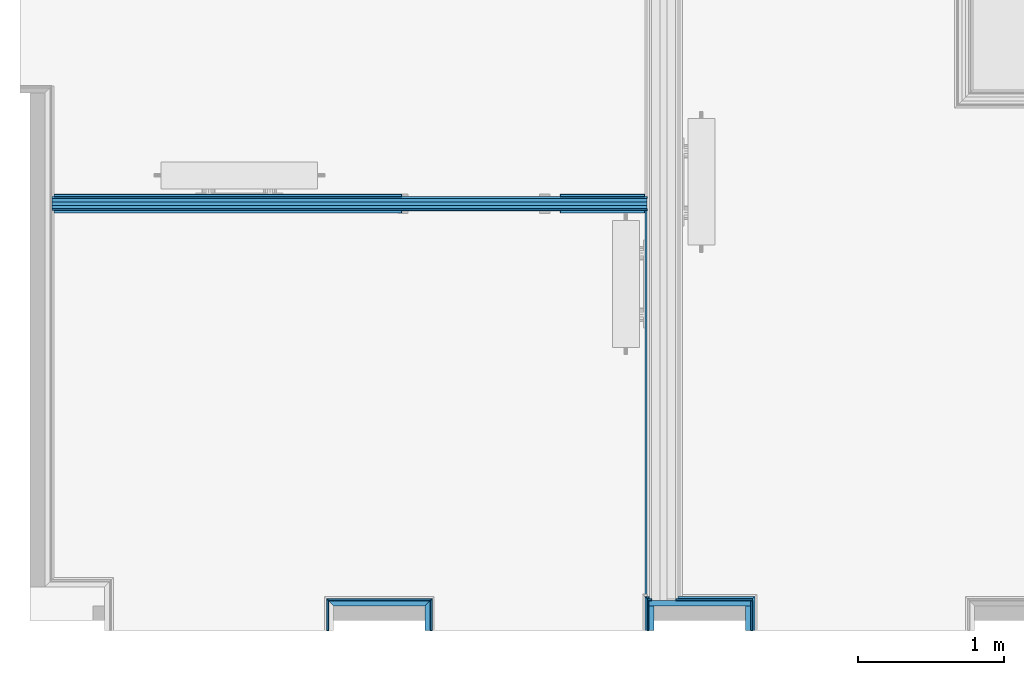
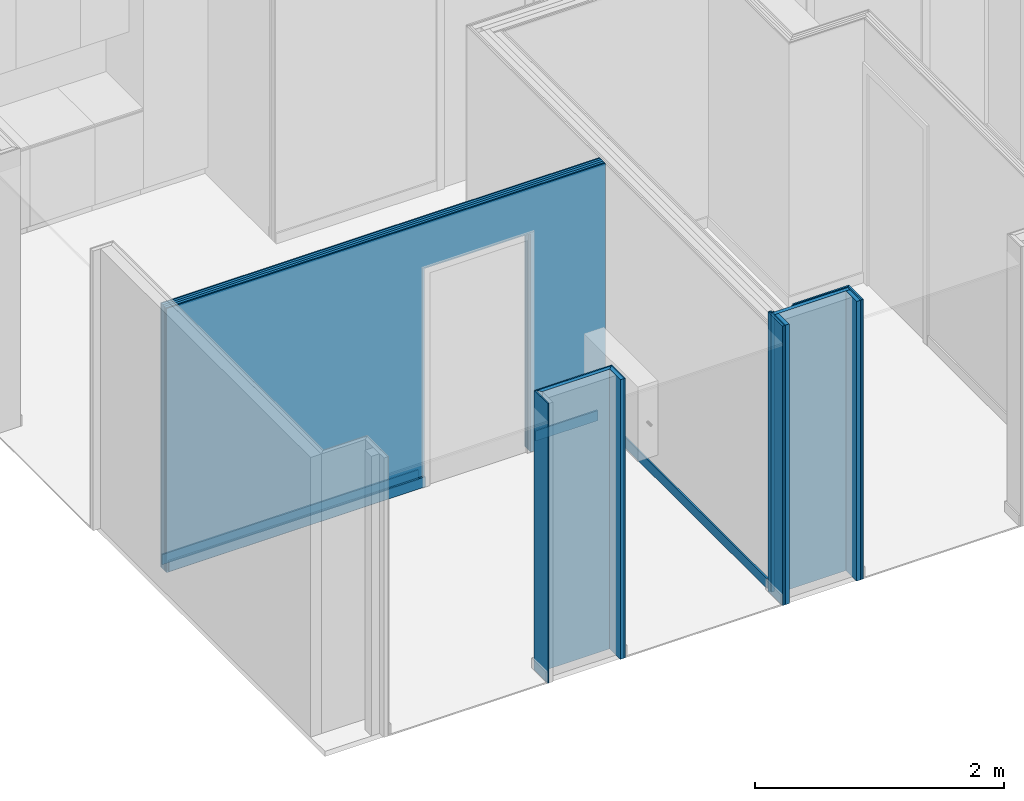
# One storey, part 9 of 82: 24 building element parts, 1 opening, 8 elements without a shape of their own.
"""IFC2X3 building model written with IfcOpenShell, lengths in metres."""

import ifcopenshell
import ifcopenshell.guid

model = None  # the IFC model being written
_history = None  # IfcOwnerHistory: only IFC2X3 demands one
_inside = {}  # id of a spatial element -> (the spatial element, [elements in it])
_under = {}  # id of a project, library or spatial element -> (it, [spatial elements below it])
_declared = {}  # id of a project -> (the project, [libraries it declares])
_typed = {}  # id of a type object -> (the type object, [elements of that type])
_made_of = {}  # id of a material, layer set ... -> (it, [elements and type objects made of it])


def new_model(schema):
    """Start an empty IFC model of exactly this schema.

    Asked for "IFC4X3", IfcOpenShell would pick the latest addendum, in which some entities
    have other attributes; the version numbers below select the first issue.
    IFC2X3 requires an IfcOwnerHistory on every rooted entity: one is made here for all.
    """
    global model, _history
    if schema == "IFC4X3":
        model = ifcopenshell.file(schema_version=(4, 3, 0, 0))
    else:
        model = ifcopenshell.file(schema=schema)
    _inside.clear()
    _under.clear()
    _declared.clear()
    _typed.clear()
    _made_of.clear()
    _history = None
    if model.schema == "IFC2X3":
        org = make("IfcOrganization", Name="unknown")
        user = make(
            "IfcPersonAndOrganization",
            ThePerson=make("IfcPerson", FamilyName="unknown"),
            TheOrganization=org,
        )
        app = make(
            "IfcApplication",
            ApplicationDeveloper=org,
            Version="unknown",
            ApplicationFullName="unknown",
            ApplicationIdentifier="unknown",
        )
        _history = make(
            "IfcOwnerHistory",
            OwningUser=user,
            OwningApplication=app,
            ChangeAction="ADDED",
            CreationDate=0,
        )
    return model


def make(cls, **values):
    """One entity of the class cls with the attributes given. An attribute that is None is left unset."""
    return model.create_entity(
        cls, **{name: value for name, value in values.items() if value is not None}
    )


def entity(cls, *values):
    """Any entity or typed value of the class cls, its attributes in the order of the schema. None: left unset."""
    e = model.create_entity(cls)
    for i, value in enumerate(values):
        if value is not None:
            e[i] = value
    return e


def rooted(cls, **values):
    """An entity with a GlobalId (a new one), such as an element, a storey or a relation."""
    return make(cls, GlobalId=ifcopenshell.guid.new(), OwnerHistory=_history, **values)


def si_unit(unit_type, name, prefix=None):
    """IfcSIUnit, for example si_unit("LENGTHUNIT", "METRE", prefix="MILLI")."""
    return make("IfcSIUnit", UnitType=unit_type, Prefix=prefix, Name=name)


def converted_unit(unit_type, name, factor, base, dimensions=None, offset=None):
    """IfcConversionBasedUnit, such as the inch: factor (a typed value) times the base unit."""
    return make(
        "IfcConversionBasedUnit"
        if offset is None
        else "IfcConversionBasedUnitWithOffset",
        ConversionOffset=offset,
        Dimensions=None
        if dimensions is None
        else entity("IfcDimensionalExponents", *dimensions),
        UnitType=unit_type,
        Name=name,
        ConversionFactor=make(
            "IfcMeasureWithUnit", ValueComponent=factor, UnitComponent=base
        ),
    )


def derived_unit(unit_type, elements):
    """IfcDerivedUnit: a product of units, each with its exponent."""
    return make(
        "IfcDerivedUnit",
        Elements=[
            make("IfcDerivedUnitElement", Unit=unit, Exponent=power)
            for unit, power in elements
        ],
        UnitType=unit_type,
    )


def money_unit(currency):
    """IfcMonetaryUnit."""
    return make("IfcMonetaryUnit", Currency=currency)


def assignment(units):
    """IfcUnitAssignment: the units of a project."""
    return None if units is None else make("IfcUnitAssignment", Units=units)


def point(xyz):
    """IfcCartesianPoint."""
    return None if xyz is None else make("IfcCartesianPoint", Coordinates=xyz)


def direction(xyz):
    """IfcDirection."""
    return None if xyz is None else make("IfcDirection", DirectionRatios=xyz)


def frame(location, z_axis=None, x_axis=None):
    """IfcAxis2Placement3D, a coordinate frame: its origin and axes. An axis left out is left unset."""
    return make(
        "IfcAxis2Placement3D",
        Location=point(location),
        Axis=direction(z_axis),
        RefDirection=direction(x_axis),
    )


def frame_2d(location, x_axis=None):
    """IfcAxis2Placement2D, a coordinate frame in the plane: its origin and x axis."""
    return make(
        "IfcAxis2Placement2D", Location=point(location), RefDirection=direction(x_axis)
    )


def origin_with_axes():
    """The frame at (0, 0, 0) with the z axis (0, 0, 1) and the x axis (1, 0, 0) written out."""
    return frame((0.0, 0.0, 0.0), z_axis=(0.0, 0.0, 1.0), x_axis=(1.0, 0.0, 0.0))


def place(relative_to, where):
    """IfcLocalPlacement: puts the frame where relative to a parent placement (None: the world)."""
    return make(
        "IfcLocalPlacement", PlacementRelTo=relative_to, RelativePlacement=where
    )


def context(
    kind, dimensions, precision=None, world=None, true_north=None, identifier=None
):
    """IfcGeometricRepresentationContext, for example the 3D "Model" context."""
    return make(
        "IfcGeometricRepresentationContext",
        ContextIdentifier=identifier,
        ContextType=kind,
        CoordinateSpaceDimension=dimensions,
        Precision=precision,
        WorldCoordinateSystem=world,
        TrueNorth=true_north,
    )


def subcontext(parent, identifier, kind, view, scale=None):
    """IfcGeometricRepresentationSubContext, for example "Body" below "Model"."""
    return make(
        "IfcGeometricRepresentationSubContext",
        ContextIdentifier=identifier,
        ContextType=kind,
        ParentContext=parent,
        TargetScale=scale,
        TargetView=view,
    )


def project(units=None, contexts=None):
    """IfcProject with its units and contexts."""
    return rooted(
        "IfcProject",
        Name="project",
        RepresentationContexts=contexts,
        UnitsInContext=assignment(units),
    )


def spatial(cls, under=None, at=None, **own):
    """A site, building, storey or space (cls), placed at a placement, below another one or the project."""
    s = rooted(cls, ObjectPlacement=at, **own)
    if under is not None:
        _under.setdefault(under.id(), (under, []))[1].append(s)
    return s


def polyline(points):
    """IfcPolyline through the points."""
    return make("IfcPolyline", Points=[point(p) for p in points])


def profile(cls, at=None, kind="AREA", **sizes):
    """A parametric profile (cls). Its sizes go by their IFC names, for example OverallWidth=200.0."""
    return make(cls, ProfileType=kind, Position=at, **sizes)


def rectangle(**sizes):
    """IfcRectangleProfileDef."""
    return profile("IfcRectangleProfileDef", **sizes)


def outline(outer, holes=None, kind="AREA"):
    """IfcArbitraryClosedProfileDef: a profile drawn as a closed curve; with holes, ...WithVoids."""
    if holes is None:
        return make("IfcArbitraryClosedProfileDef", ProfileType=kind, OuterCurve=outer)
    return make(
        "IfcArbitraryProfileDefWithVoids",
        ProfileType=kind,
        OuterCurve=outer,
        InnerCurves=holes,
    )


def extrude(swept, where, along, depth):
    """IfcExtrudedAreaSolid: the profile swept, set in the frame where, extruded along a direction by depth."""
    return make(
        "IfcExtrudedAreaSolid",
        SweptArea=swept,
        Position=where,
        ExtrudedDirection=direction(along),
        Depth=depth,
    )


def shape(context_of_items, identifier, shape_type, items):
    """IfcShapeRepresentation: the items that make up one representation, for example the "Body"."""
    return make(
        "IfcShapeRepresentation",
        ContextOfItems=context_of_items,
        RepresentationIdentifier=identifier,
        RepresentationType=shape_type,
        Items=items,
    )


def material(Name=None, Category=None):
    """IfcMaterial."""
    return make("IfcMaterial", Name=Name, Category=Category)


def made_of(thing, what):
    """Note that an element or type object is made of a material, layer set ...; save() writes the relation."""
    if what is not None:
        _made_of.setdefault(what.id(), (what, []))[1].append(thing)
    return thing


def type_object(cls, material=None, **own):
    """A type object (cls), such as IfcWallType, which elements share."""
    return made_of(rooted(cls, **own), material)


def element(
    cls,
    number,
    at=None,
    inside=None,
    cuts=None,
    type_object=None,
    material=None,
    context=None,
    identifier="Body",
    shape_type=None,
    held_by="IfcProductDefinitionShape",
    body=None,
    shapes=None,
    **own,
):
    """One element of the class cls, such as IfcWall. Its Tag is "e" and its number.

    at: its placement. inside: the storey or other place that contains it. cuts: it is an
    opening in that element (IfcRelVoidsElement). A single representation is given by context,
    identifier, shape_type and body (its items); several are given by shapes. held_by: the class
    of the entity that holds the representations. save() writes the other relations.
    """
    e = rooted(cls, Tag="e%d" % number, ObjectPlacement=at, **own)
    if body is not None:
        shapes = [shape(context, identifier, shape_type, body)]
    if shapes is not None:
        e.Representation = make(held_by, Representations=shapes)
    if inside is not None:
        _inside.setdefault(inside.id(), (inside, []))[1].append(e)
    if cuts is not None:
        rooted(
            "IfcRelVoidsElement", RelatingBuildingElement=cuts, RelatedOpeningElement=e
        )
    if type_object is not None:
        _typed.setdefault(type_object.id(), (type_object, []))[1].append(e)
    return made_of(e, material)


def aggregate(whole, parts):
    """IfcRelAggregates: a whole, such as a stair, and the parts it consists of."""
    return rooted("IfcRelAggregates", RelatingObject=whole, RelatedObjects=parts)


def save(model, path):
    """Write the relations noted so far, then the file.

    IfcRelAggregates (storeys below a building ...), IfcRelContainedInSpatialStructure (elements
    in a storey), IfcRelDefinesByType, IfcRelAssociatesMaterial and IfcRelDeclares: one each for
    every whole, place, type object, material and project.
    """
    for whole, parts in _under.values():
        aggregate(whole, parts)
    for where, things in _inside.values():
        rooted(
            "IfcRelContainedInSpatialStructure",
            RelatedElements=things,
            RelatingStructure=where,
        )
    for kind, things in _typed.values():
        rooted("IfcRelDefinesByType", RelatedObjects=things, RelatingType=kind)
    for what, things in _made_of.values():
        rooted("IfcRelAssociatesMaterial", RelatedObjects=things, RelatingMaterial=what)
    for by, libraries in _declared.values():
        rooted("IfcRelDeclares", RelatingContext=by, RelatedDefinitions=libraries)
    model.write(path)


model = new_model("IFC2X3")

# Units and contexts
model_context = context("Model", 3, precision=1e-05, world=origin_with_axes(), true_north=direction((0.0, 1.0)))
body_context = subcontext(model_context, "Body", "Model", "MODEL_VIEW", scale=1.0)
ifc_project = project(units=[si_unit("LENGTHUNIT", "METRE"), si_unit("AREAUNIT", "SQUARE_METRE"), si_unit("VOLUMEUNIT", "CUBIC_METRE"), si_unit("ABSORBEDDOSEUNIT", "GRAY"), si_unit("AMOUNTOFSUBSTANCEUNIT", "MOLE"), si_unit("DOSEEQUIVALENTUNIT", "SIEVERT"), si_unit("ELECTRICCAPACITANCEUNIT", "FARAD"), si_unit("ELECTRICCHARGEUNIT", "COULOMB"), si_unit("ELECTRICCONDUCTANCEUNIT", "SIEMENS"), si_unit("ELECTRICCURRENTUNIT", "AMPERE"), si_unit("ELECTRICRESISTANCEUNIT", "OHM"), si_unit("ELECTRICVOLTAGEUNIT", "VOLT"), si_unit("ENERGYUNIT", "JOULE"), si_unit("FORCEUNIT", "NEWTON"), si_unit("FREQUENCYUNIT", "HERTZ"), si_unit("ILLUMINANCEUNIT", "LUX"), si_unit("INDUCTANCEUNIT", "HENRY"), si_unit("LUMINOUSFLUXUNIT", "LUMEN"), si_unit("LUMINOUSINTENSITYUNIT", "CANDELA"), si_unit("MAGNETICFLUXDENSITYUNIT", "TESLA"), si_unit("MAGNETICFLUXUNIT", "WEBER"), si_unit("MASSUNIT", "GRAM"), converted_unit("PLANEANGLEUNIT", "degree", entity("IfcReal", 0.0174532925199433), si_unit("PLANEANGLEUNIT", "RADIAN"), dimensions=[0, 0, 0, 0, 0, 0, 0]), si_unit("POWERUNIT", "WATT"), si_unit("PRESSUREUNIT", "PASCAL"), si_unit("RADIOACTIVITYUNIT", "BECQUEREL"), si_unit("SOLIDANGLEUNIT", "STERADIAN"), si_unit("THERMODYNAMICTEMPERATUREUNIT", "KELVIN"), si_unit("TIMEUNIT", "SECOND"), derived_unit("ACCELERATIONUNIT", [(si_unit("LENGTHUNIT", "METRE"), 1), (si_unit("TIMEUNIT", "SECOND"), -2)]), derived_unit("ANGULARVELOCITYUNIT", [(converted_unit("PLANEANGLEUNIT", "degree", entity("IfcReal", 0.0174532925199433), si_unit("PLANEANGLEUNIT", "RADIAN"), dimensions=[0, 0, 0, 0, 0, 0, 0]), 1), (si_unit("TIMEUNIT", "SECOND"), -1)]), derived_unit("CURVATUREUNIT", [(converted_unit("PLANEANGLEUNIT", "degree", entity("IfcReal", 0.0174532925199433), si_unit("PLANEANGLEUNIT", "RADIAN"), dimensions=[0, 0, 0, 0, 0, 0, 0]), 1), (si_unit("LENGTHUNIT", "METRE"), -1)]), derived_unit("DYNAMICVISCOSITYUNIT", [(si_unit("PRESSUREUNIT", "PASCAL"), 1), (si_unit("TIMEUNIT", "SECOND"), 1)]), derived_unit("HEATFLUXDENSITYUNIT", [(si_unit("POWERUNIT", "WATT"), 1), (si_unit("LENGTHUNIT", "METRE"), -2)]), derived_unit("HEATINGVALUEUNIT", [(si_unit("ENERGYUNIT", "JOULE"), 1), (si_unit("MASSUNIT", "GRAM"), -1)]), derived_unit("INTEGERCOUNTRATEUNIT", [(si_unit("TIMEUNIT", "SECOND"), -1)]), derived_unit("IONCONCENTRATIONUNIT", [(si_unit("MASSUNIT", "GRAM"), 1), (si_unit("VOLUMEUNIT", "CUBIC_METRE"), -1)]), derived_unit("ISOTHERMALMOISTURECAPACITYUNIT", [(si_unit("VOLUMEUNIT", "CUBIC_METRE"), 1), (si_unit("MASSUNIT", "GRAM"), -1)]), derived_unit("KINEMATICVISCOSITYUNIT", [(si_unit("AREAUNIT", "SQUARE_METRE"), 1), (si_unit("TIMEUNIT", "SECOND"), -1)]), derived_unit("LINEARFORCEUNIT", [(si_unit("FORCEUNIT", "NEWTON"), 1), (si_unit("LENGTHUNIT", "METRE"), -1)]), derived_unit("LINEARMOMENTUNIT", [(si_unit("FORCEUNIT", "NEWTON"), 1), (si_unit("LENGTHUNIT", "METRE"), -1)]), derived_unit("LINEARSTIFFNESSUNIT", [(si_unit("FORCEUNIT", "NEWTON"), 1), (si_unit("LENGTHUNIT", "METRE"), -1)]), derived_unit("LINEARVELOCITYUNIT", [(si_unit("LENGTHUNIT", "METRE"), 1), (si_unit("TIMEUNIT", "SECOND"), -1)]), derived_unit("LUMINOUSINTENSITYDISTRIBUTIONUNIT", [(si_unit("LUMINOUSINTENSITYUNIT", "CANDELA"), 1), (si_unit("LUMINOUSFLUXUNIT", "LUMEN"), -1)]), derived_unit("MASSDENSITYUNIT", [(si_unit("MASSUNIT", "GRAM"), 1), (si_unit("VOLUMEUNIT", "CUBIC_METRE"), -1)]), derived_unit("MASSFLOWRATEUNIT", [(si_unit("MASSUNIT", "GRAM"), 1), (si_unit("TIMEUNIT", "SECOND"), -1)]), derived_unit("MASSPERLENGTHUNIT", [(si_unit("MASSUNIT", "GRAM"), 1), (si_unit("LENGTHUNIT", "METRE"), -1)]), derived_unit("MODULUSOFELASTICITYUNIT", [(si_unit("FORCEUNIT", "NEWTON"), 1), (si_unit("AREAUNIT", "SQUARE_METRE"), -1)]), derived_unit("MODULUSOFLINEARSUBGRADEREACTIONUNIT", [(si_unit("FORCEUNIT", "NEWTON"), 1), (si_unit("LENGTHUNIT", "METRE"), -2)]), derived_unit("MODULUSOFROTATIONALSUBGRADEREACTIONUNIT", [(si_unit("FORCEUNIT", "NEWTON"), 1), (si_unit("LENGTHUNIT", "METRE"), 1)]), derived_unit("MODULUSOFSUBGRADEREACTIONUNIT", [(si_unit("FORCEUNIT", "NEWTON"), 1), (si_unit("VOLUMEUNIT", "CUBIC_METRE"), -1)]), derived_unit("MOISTUREDIFFUSIVITYUNIT", [(si_unit("VOLUMEUNIT", "CUBIC_METRE"), 1), (si_unit("TIMEUNIT", "SECOND"), -1)]), derived_unit("MOLECULARWEIGHTUNIT", [(si_unit("MASSUNIT", "GRAM"), 1), (si_unit("AMOUNTOFSUBSTANCEUNIT", "MOLE"), -1)]), derived_unit("PLANARFORCEUNIT", [(si_unit("FORCEUNIT", "NEWTON"), 1), (si_unit("LENGTHUNIT", "METRE"), -2)]), derived_unit("ROTATIONALFREQUENCYUNIT", [(si_unit("TIMEUNIT", "SECOND"), -1)]), derived_unit("ROTATIONALMASSUNIT", [(si_unit("MASSUNIT", "GRAM"), 1), (si_unit("LENGTHUNIT", "METRE"), 2)]), derived_unit("ROTATIONALSTIFFNESSUNIT", [(si_unit("FORCEUNIT", "NEWTON"), 1), (si_unit("LENGTHUNIT", "METRE"), 1), (converted_unit("PLANEANGLEUNIT", "degree", entity("IfcReal", 0.0174532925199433), si_unit("PLANEANGLEUNIT", "RADIAN"), dimensions=[0, 0, 0, 0, 0, 0, 0]), -1)]), derived_unit("SECTIONAREAINTEGRALUNIT", [(si_unit("LENGTHUNIT", "METRE"), 5)]), derived_unit("SECTIONMODULUSUNIT", [(si_unit("LENGTHUNIT", "METRE"), 3)]), derived_unit("SHEARMODULUSUNIT", [(si_unit("FORCEUNIT", "NEWTON"), 1), (si_unit("AREAUNIT", "SQUARE_METRE"), -1)]), derived_unit("SOUNDPOWERUNIT", [(si_unit("ENERGYUNIT", "JOULE"), 1), (si_unit("TIMEUNIT", "SECOND"), -1)]), derived_unit("SPECIFICHEATCAPACITYUNIT", [(si_unit("FORCEUNIT", "NEWTON"), 1), (si_unit("MASSUNIT", "GRAM"), -1), (si_unit("THERMODYNAMICTEMPERATUREUNIT", "KELVIN"), -1)]), derived_unit("TEMPERATUREGRADIENTUNIT", [(si_unit("THERMODYNAMICTEMPERATUREUNIT", "KELVIN"), 1), (si_unit("LENGTHUNIT", "METRE"), -1)]), derived_unit("THERMALADMITTANCEUNIT", [(si_unit("POWERUNIT", "WATT"), 1), (si_unit("AREAUNIT", "SQUARE_METRE"), -1), (si_unit("THERMODYNAMICTEMPERATUREUNIT", "KELVIN"), -1)]), derived_unit("THERMALCONDUCTANCEUNIT", [(si_unit("POWERUNIT", "WATT"), 1), (si_unit("LENGTHUNIT", "METRE"), -1), (si_unit("THERMODYNAMICTEMPERATUREUNIT", "KELVIN"), -1)]), derived_unit("THERMALEXPANSIONCOEFFICIENTUNIT", [(si_unit("THERMODYNAMICTEMPERATUREUNIT", "KELVIN"), -1)]), derived_unit("THERMALRESISTANCEUNIT", [(si_unit("AREAUNIT", "SQUARE_METRE"), 1), (si_unit("POWERUNIT", "WATT"), -1)]), derived_unit("THERMALTRANSMITTANCEUNIT", [(si_unit("POWERUNIT", "WATT"), 1), (si_unit("AREAUNIT", "SQUARE_METRE"), -1), (si_unit("THERMODYNAMICTEMPERATUREUNIT", "KELVIN"), -1)]), derived_unit("TORQUEUNIT", [(si_unit("FORCEUNIT", "NEWTON"), 1), (si_unit("LENGTHUNIT", "METRE"), 1)]), derived_unit("VAPORPERMEABILITYUNIT", [(si_unit("MASSUNIT", "GRAM"), 1), (si_unit("TIMEUNIT", "SECOND"), -1)]), derived_unit("VOLUMETRICFLOWRATEUNIT", [(si_unit("VOLUMEUNIT", "CUBIC_METRE"), 1), (si_unit("TIMEUNIT", "SECOND"), -1)]), derived_unit("WARPINGCONSTANTUNIT", [(si_unit("LENGTHUNIT", "METRE"), 6)]), derived_unit("WARPINGMOMENTUNIT", [(si_unit("FORCEUNIT", "NEWTON"), 1), (si_unit("LENGTHUNIT", "METRE"), 2)]), money_unit("GBP")], contexts=[model_context])

# Site, building, storey
site_placement = place(None, origin_with_axes())
site = spatial("IfcSite", under=ifc_project, at=site_placement, Name="Site", CompositionType="ELEMENT")
building_placement = place(site_placement, origin_with_axes())
building = spatial("IfcBuilding", under=site, at=building_placement, Name="Building01", CompositionType="ELEMENT")
storey_placement = place(building_placement, frame((0.0, 0.0, 12.13), z_axis=(0.0, 0.0, 1.0), x_axis=(1.0, 0.0, 0.0)))
storey = spatial("IfcBuildingStorey", under=building, at=storey_placement, Name="3F", CompositionType="ELEMENT", Elevation=12.13)

# Wall, building element part
wall_type_1 = type_object("IfcWallType", Name="SHE_A-Walls_Type06d_ExternalWallInsulation_48mm", PredefinedType="NOTDEFINED")
wall_1_placement = place(storey_placement, frame((2.243, 0.1, 0.0), z_axis=(0.0, 0.0, 1.0), x_axis=(0.0, 1.0, 0.0)))
wall_1 = element("IfcWall", 1, at=wall_1_placement, inside=storey, type_object=wall_type_1, Name="6D", ObjectType="SHE_A-Walls_Type06d_ExternalWallInsulation_48mm")
ifc_material_1 = material(Name="A_BSUK_WallInternal_Finishes_Plasterboard")
building_element_part_1_placement = place(wall_1_placement, origin_with_axes())
building_element_part_1 = element("IfcBuildingElementPart", 2, at=building_element_part_1_placement, material=ifc_material_1, Name="2", context=body_context, shape_type="SweptSolid", body=[
    extrude(outline(polyline([(0.218, 0.048), (0.0, 0.048), (0.0, 0.035), (0.205, 0.035), (0.218, 0.048)])), origin_with_axes(), (0.0, 0.0, 1.0), 2.74),
])
aggregate(wall_1, [building_element_part_1])

# Wall, building element parts
wall_2_placement = place(storey_placement, frame((2.243, 0.27, 0.0), z_axis=(0.0, 0.0, 1.0), x_axis=(1.0, 0.0, 0.0)))
wall_2 = element("IfcWall", 3, at=wall_2_placement, inside=storey, type_object=wall_type_1, Name="6D", ObjectType="SHE_A-Walls_Type06d_ExternalWallInsulation_48mm")
ifc_material_2 = material(Name="A_BSUK_Insulation")
placement_1 = place(wall_2_placement, origin_with_axes())
building_element_part_2 = element("IfcBuildingElementPart", 4, at=placement_1, material=ifc_material_2, Name="1", context=body_context, shape_type="SweptSolid", body=[
    extrude(outline(polyline([(0.66, 0.036), (-0.036, 0.036), (0.0, 0.0), (0.624, 0.0), (0.66, 0.036)])), origin_with_axes(), (0.0, 0.0, 1.0), 2.74),
])
building_element_part_3 = element("IfcBuildingElementPart", 5, at=placement_1, material=ifc_material_1, Name="2", context=body_context, shape_type="SweptSolid", body=[
    extrude(outline(polyline([(0.672, 0.048), (-0.048, 0.048), (-0.035, 0.035), (0.659, 0.035), (0.672, 0.048)])), origin_with_axes(), (0.0, 0.0, 1.0), 2.74),
])
aggregate(wall_2, [building_element_part_2, building_element_part_3])

wall_3_placement = place(storey_placement, frame((2.867, 0.27, 0.0), z_axis=(0.0, 0.0, 1.0), x_axis=(0.0, -1.0, 0.0)))
wall_3 = element("IfcWall", 6, at=wall_3_placement, inside=storey, type_object=wall_type_1, Name="6D", ObjectType="SHE_A-Walls_Type06d_ExternalWallInsulation_48mm")
placement_2 = place(wall_3_placement, origin_with_axes())
building_element_part_4 = element("IfcBuildingElementPart", 7, at=placement_2, material=ifc_material_2, Name="1", context=body_context, shape_type="SweptSolid", body=[
    extrude(outline(polyline([(-0.036, 0.036), (0.0, 0.0), (0.17, 0.0), (0.17, 0.036), (-0.036, 0.036)])), origin_with_axes(), (0.0, 0.0, 1.0), 2.74),
])
building_element_part_5 = element("IfcBuildingElementPart", 8, at=placement_2, material=ifc_material_1, Name="2", context=body_context, shape_type="SweptSolid", body=[
    extrude(outline(polyline([(-0.048, 0.048), (-0.035, 0.035), (0.17, 0.035), (0.17, 0.048), (-0.048, 0.048)])), origin_with_axes(), (0.0, 0.0, 1.0), 2.74),
])
aggregate(wall_3, [building_element_part_4, building_element_part_5])

# Wall, building element part
wall_type_2 = type_object("IfcWallType", Name="SHE_A-Walls_Type01c_Partywall_225mm_twin_tall", PredefinedType="NOTDEFINED")
wall_4_placement = place(storey_placement, frame((4.522, 0.306, 0.0), z_axis=(0.0, 0.0, 1.0), x_axis=(0.0, 1.0, 0.0)))
wall_4 = element("IfcWall", 9, at=wall_4_placement, inside=storey, type_object=wall_type_2, Name="1C", ObjectType="SHE_A-Walls_Type01c_Partywall_225mm_twin_tall")
ifc_material_3 = material(Name="A_BSUK_Walls_Timber")
building_element_part_6_placement = place(wall_4_placement, origin_with_axes())
building_element_part_6 = element("IfcBuildingElementPart", 10, at=building_element_part_6_placement, material=ifc_material_3, Name="9", context=body_context, shape_type="SweptSolid", body=[
    extrude(rectangle(XDim=2.622286, YDim=0.015, at=frame_2d((1.353143, 0.1445), x_axis=(-1.0, 0.0))), frame((0.0, 0.0, 0.015), z_axis=(0.0, 0.0, 1.0), x_axis=(1.0, 0.0, 0.0)), (0.0, 0.0, 1.0), 0.1),
])
aggregate(wall_4, [building_element_part_6])

# Wall, opening, building element parts
wall_type_3 = type_object("IfcWallType", Name="SHE_A-Walls_Type05a_Partition_95mm_tall", PredefinedType="NOTDEFINED")
wall_5_placement = place(storey_placement, frame((0.318, 3.030286, 0.0), z_axis=(0.0, 0.0, 1.0), x_axis=(1.0, 0.0, 0.0)))
wall_5 = element("IfcWall", 11, at=wall_5_placement, inside=storey, type_object=wall_type_3, Name="5A", ObjectType="SHE_A-Walls_Type05a_Partition_95mm_tall")
opening_placement = place(wall_5_placement, frame((2.391, -0.075, -0.03), z_axis=(0.0, 0.0, 1.0), x_axis=(1.0, 0.0, 0.0)))
element("IfcOpeningElement", 12, at=opening_placement, cuts=wall_5, Name="Opening", ObjectType="Opening", context=body_context, shape_type="SweptSolid", body=[
    extrude(outline(polyline([(-0.984, 0.0), (-0.099, 0.0), (-0.099, 0.03), (0.0, 0.03), (0.0, 2.172), (-0.984, 2.172), (-0.984, 0.0)])), frame((0.0, 0.0, 0.0), z_axis=(0.0, 1.0, 0.0), x_axis=(-1.0, 0.0, 0.0)), (0.0, 0.0, 1.0), 0.125),
    extrude(rectangle(XDim=0.984, YDim=2.172, at=frame_2d((-0.492, 1.086), x_axis=(1.0, 0.0))), frame((0.0, 0.015, 0.0), z_axis=(0.0, 1.0, 0.0), x_axis=(-1.0, 0.0, 0.0)), (0.0, 0.0, 1.0), 0.012),
    extrude(outline(polyline([(-0.099, 0.03), (0.0, 0.03), (0.0, 2.172), (-0.984, 2.172), (-0.984, 2.142), (-1.083, 2.142), (-1.083, 0.0), (-0.099, 0.0), (-0.099, 0.03)])), frame((0.0, 0.0, 0.0), z_axis=(0.0, 1.0, 0.0), x_axis=(-1.0, 0.0, 0.0)), (0.0, 0.0, 1.0), 0.015),
    extrude(rectangle(XDim=0.984, YDim=2.172, at=frame_2d((-0.492, 1.086), x_axis=(1.0, 0.0))), frame((0.0, 0.027, 0.0), z_axis=(0.0, 1.0, 0.0), x_axis=(-1.0, 0.0, 0.0)), (0.0, 0.0, 1.0), 0.023),
    extrude(outline(polyline([(-0.984, 0.0), (-0.042, 0.0), (-0.042, 0.03), (0.0, 0.03), (0.0, 2.172), (-0.984, 2.172), (-0.984, 0.0)])), frame((0.0, 0.05, 0.0), z_axis=(0.0, 1.0, 0.0), x_axis=(-1.0, 0.0, 0.0)), (0.0, 0.0, 1.0), 0.025),
    extrude(outline(polyline([(-0.984, 0.0), (-0.042, 0.0), (-0.042, 0.03), (0.0, 0.03), (0.0, 2.172), (-0.984, 2.172), (-0.984, 0.0)])), frame((0.0, 0.075, 0.0), z_axis=(0.0, 1.0, 0.0), x_axis=(-1.0, 0.0, 0.0)), (0.0, 0.0, 1.0), 0.023),
    extrude(outline(polyline([(-0.984, 0.0), (-0.042, 0.0), (-0.042, 0.03), (0.0, 0.03), (0.0, 2.172), (-0.984, 2.172), (-0.984, 0.0)])), frame((0.0, 0.098, 0.0), z_axis=(0.0, 1.0, 0.0), x_axis=(-1.0, 0.0, 0.0)), (0.0, 0.0, 1.0), 0.012),
    extrude(outline(polyline([(-0.099, 0.03), (0.0, 0.03), (0.0, 2.172), (-0.984, 2.172), (-0.984, 2.142), (-1.083, 2.142), (-1.083, 0.0), (-0.099, 0.0), (-0.099, 0.03)])), frame((0.0, 0.11, 0.0), z_axis=(0.0, 1.0, 0.0), x_axis=(-1.0, 0.0, 0.0)), (0.0, 0.0, 1.0), 0.015),
])
placement_3 = place(wall_5_placement, origin_with_axes())
building_element_part_7 = element("IfcBuildingElementPart", 13, at=placement_3, material=ifc_material_3, Name="1", context=body_context, shape_type="SweptSolid", body=[
    extrude(rectangle(XDim=4.037, YDim=0.015, at=frame_2d((2.0335, -0.0675), x_axis=(-1.0, 0.0))), frame((0.0, 0.0, 0.015), z_axis=(0.0, 0.0, 1.0), x_axis=(1.0, 0.0, 0.0)), (0.0, 0.0, 1.0), 0.1),
])
building_element_part_8 = element("IfcBuildingElementPart", 14, at=placement_3, material=ifc_material_1, Name="2", context=body_context, shape_type="SweptSolid", body=[
    extrude(rectangle(XDim=4.067, YDim=0.012, at=frame_2d((2.0335, -0.054), x_axis=(-1.0, 0.0))), origin_with_axes(), (0.0, 0.0, 1.0), 2.59),
])
ifc_material_4 = material(Name="Air Cavity")
building_element_part_9 = element("IfcBuildingElementPart", 15, at=placement_3, material=ifc_material_4, Name="3", context=body_context, shape_type="SweptSolid", body=[
    extrude(rectangle(XDim=4.067, YDim=0.023, at=frame_2d((2.0335, -0.0365), x_axis=(-1.0, 0.0))), origin_with_axes(), (0.0, 0.0, 1.0), 2.59),
])
building_element_part_10 = element("IfcBuildingElementPart", 16, at=placement_3, material=ifc_material_2, Name="4", context=body_context, shape_type="SweptSolid", body=[
    extrude(rectangle(XDim=4.067, YDim=0.025, at=frame_2d((2.0335, -0.0125), x_axis=(-1.0, 0.0))), origin_with_axes(), (0.0, 0.0, 1.0), 2.59),
])
building_element_part_11 = element("IfcBuildingElementPart", 17, at=placement_3, material=ifc_material_4, Name="5", context=body_context, shape_type="SweptSolid", body=[
    extrude(rectangle(XDim=4.067, YDim=0.023, at=frame_2d((2.0335, 0.0115), x_axis=(-1.0, 0.0))), origin_with_axes(), (0.0, 0.0, 1.0), 2.59),
])
building_element_part_12 = element("IfcBuildingElementPart", 18, at=placement_3, material=ifc_material_1, Name="6", context=body_context, shape_type="SweptSolid", body=[
    extrude(rectangle(XDim=4.067, YDim=0.012, at=frame_2d((2.0335, 0.029), x_axis=(-1.0, 0.0))), origin_with_axes(), (0.0, 0.0, 1.0), 2.59),
])
building_element_part_13 = element("IfcBuildingElementPart", 19, at=placement_3, material=ifc_material_3, Name="7", context=body_context, shape_type="SweptSolid", body=[
    extrude(rectangle(XDim=4.037, YDim=0.015, at=frame_2d((2.0335, 0.0425), x_axis=(-1.0, 0.0))), frame((0.0, 0.0, 0.015), z_axis=(0.0, 0.0, 1.0), x_axis=(1.0, 0.0, 0.0)), (0.0, 0.0, 1.0), 0.1),
])
aggregate(wall_5, [building_element_part_7, building_element_part_8, building_element_part_9, building_element_part_10, building_element_part_11, building_element_part_12, building_element_part_13])

# Wall, building element parts
wall_type_4 = type_object("IfcWallType", Name="SHE_A-Walls_Type06f_ExternalWallInsulation_48+15mm", PredefinedType="NOTDEFINED")
wall_6_placement = place(storey_placement, frame((4.433, 0.1, 0.0), z_axis=(0.0, 0.0, 1.0), x_axis=(0.0, -1.0, 0.0)))
wall_6 = element("IfcWall", 20, at=wall_6_placement, inside=storey, type_object=wall_type_4, Name="6F", ObjectType="SHE_A-Walls_Type06f_ExternalWallInsulation_48+15mm")
placement_4 = place(wall_6_placement, origin_with_axes())
building_element_part_14 = element("IfcBuildingElementPart", 21, at=placement_4, material=ifc_material_1, Name="2", context=body_context, shape_type="SweptSolid", body=[
    extrude(outline(polyline([(-0.233, -0.063), (0.0, -0.063), (0.0, -0.048), (-0.218, -0.048), (-0.233, -0.063)])), origin_with_axes(), (0.0, 0.0, 1.0), 2.74),
])
building_element_part_15 = element("IfcBuildingElementPart", 22, at=placement_4, material=ifc_material_1, Name="3", context=body_context, shape_type="SweptSolid", body=[
    extrude(rectangle(XDim=0.206, YDim=0.012, at=frame_2d((-0.103, -0.042), x_axis=(1.0, 0.0))), origin_with_axes(), (0.0, 0.0, 1.0), 2.74),
])
building_element_part_16 = element("IfcBuildingElementPart", 23, at=placement_4, material=ifc_material_2, Name="4", context=body_context, shape_type="SweptSolid", body=[
    extrude(rectangle(XDim=0.17, YDim=0.036, at=frame_2d((-0.085, -0.018), x_axis=(1.0, 0.0))), origin_with_axes(), (0.0, 0.0, 1.0), 2.74),
])
aggregate(wall_6, [building_element_part_14, building_element_part_15, building_element_part_16])

wall_7_placement = place(storey_placement, frame((5.057124, 0.1, 0.0), z_axis=(0.0, 0.0, 1.0), x_axis=(0.0, -1.0, 0.0)))
wall_7 = element("IfcWall", 24, at=wall_7_placement, inside=storey, type_object=wall_type_4, Name="6F", ObjectType="SHE_A-Walls_Type06f_ExternalWallInsulation_48+15mm")
placement_5 = place(wall_7_placement, origin_with_axes())
building_element_part_17 = element("IfcBuildingElementPart", 25, at=placement_5, material=ifc_material_2, Name="1", context=body_context, shape_type="SweptSolid", body=[
    extrude(rectangle(XDim=0.17, YDim=0.036, at=frame_2d((-0.085, 0.018), x_axis=(1.0, 0.0))), origin_with_axes(), (0.0, 0.0, 1.0), 2.74),
])
building_element_part_18 = element("IfcBuildingElementPart", 26, at=placement_5, material=ifc_material_1, Name="2", context=body_context, shape_type="SweptSolid", body=[
    extrude(rectangle(XDim=0.206, YDim=0.012, at=frame_2d((-0.103, 0.042), x_axis=(1.0, 0.0))), origin_with_axes(), (0.0, 0.0, 1.0), 2.74),
])
building_element_part_19 = element("IfcBuildingElementPart", 27, at=placement_5, material=ifc_material_1, Name="3", context=body_context, shape_type="SweptSolid", body=[
    extrude(outline(polyline([(-0.218, 0.048), (0.0, 0.048), (0.0, 0.063), (-0.233, 0.063), (-0.218, 0.048)])), origin_with_axes(), (0.0, 0.0, 1.0), 2.74),
])
aggregate(wall_7, [building_element_part_17, building_element_part_18, building_element_part_19])

wall_8_placement = place(storey_placement, frame((5.093124, 0.27, 0.0), z_axis=(0.0, 0.0, 1.0), x_axis=(-1.0, 0.0, 0.0)))
wall_8 = element("IfcWall", 28, at=wall_8_placement, inside=storey, type_object=wall_type_4, Name="6F", ObjectType="SHE_A-Walls_Type06f_ExternalWallInsulation_48+15mm")
placement_6 = place(wall_8_placement, origin_with_axes())
building_element_part_20 = element("IfcBuildingElementPart", 29, at=placement_6, material=ifc_material_1, Name="3", context=body_context, shape_type="SweptSolid", body=[
    extrude(outline(polyline([(0.498124, -0.048), (-0.012, -0.048), (-0.027, -0.063), (0.498124, -0.063), (0.498124, -0.048)])), origin_with_axes(), (0.0, 0.0, 1.0), 2.74),
])
building_element_part_21 = element("IfcBuildingElementPart", 30, at=placement_6, material=ifc_material_1, Name="4", context=body_context, shape_type="SweptSolid", body=[
    extrude(outline(polyline([(0.708124, -0.048), (0.693124, -0.048), (0.693124, -0.063), (0.723124, -0.063), (0.708124, -0.048)])), origin_with_axes(), (0.0, 0.0, 1.0), 2.74),
])
building_element_part_22 = element("IfcBuildingElementPart", 31, at=placement_6, material=ifc_material_1, Name="5", context=body_context, shape_type="SweptSolid", body=[
    extrude(rectangle(XDim=0.525124, YDim=0.012, at=frame_2d((0.250562, -0.042), x_axis=(-1.0, 0.0))), origin_with_axes(), (0.0, 0.0, 1.0), 2.74),
])
building_element_part_23 = element("IfcBuildingElementPart", 32, at=placement_6, material=ifc_material_1, Name="6", context=body_context, shape_type="SweptSolid", body=[
    extrude(rectangle(XDim=0.03, YDim=0.012, at=frame_2d((0.693124, -0.042), x_axis=(-1.0, 0.0))), origin_with_axes(), (0.0, 0.0, 1.0), 2.74),
])
building_element_part_24 = element("IfcBuildingElementPart", 33, at=placement_6, material=ifc_material_2, Name="7", context=body_context, shape_type="SweptSolid", body=[
    extrude(rectangle(XDim=0.696124, YDim=0.036, at=frame_2d((0.348062, -0.018), x_axis=(-1.0, 0.0))), origin_with_axes(), (0.0, 0.0, 1.0), 2.74),
])
aggregate(wall_8, [building_element_part_20, building_element_part_21, building_element_part_22, building_element_part_23, building_element_part_24])

save(model, "model.ifc")
